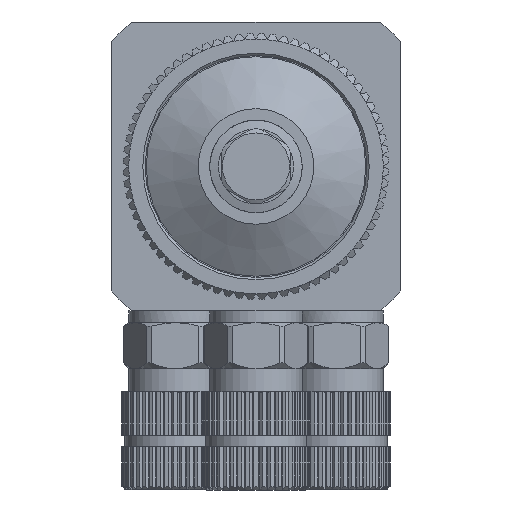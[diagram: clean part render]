
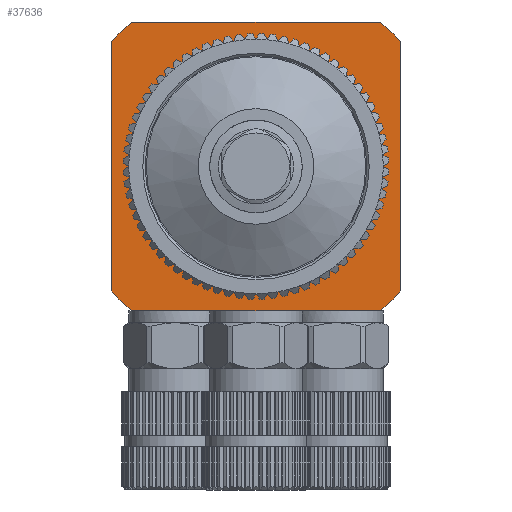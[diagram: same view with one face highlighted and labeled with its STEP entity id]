
A CAD part, front view. The second image highlights one B-rep face of the part: STEP entity #37636.
In plain terms, the highlighted planar face has unit normal (0, -1, 0).
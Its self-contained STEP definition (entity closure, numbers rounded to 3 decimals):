
#107 = VERTEX_POINT ( 'NONE', #40897 ) ;
#483 = LINE ( 'NONE', #20623, #43515 ) ;
#654 = ORIENTED_EDGE ( 'NONE', *, *, #15394, .T. ) ;
#2486 = AXIS2_PLACEMENT_3D ( 'NONE', #40423, #13170, #28782 ) ;
#3409 = AXIS2_PLACEMENT_3D ( 'NONE', #17723, #41789, #9513 ) ;
#5259 = EDGE_CURVE ( 'NONE', #39240, #23253, #48173, .T. ) ;
#5590 = ORIENTED_EDGE ( 'NONE', *, *, #6698, .F. ) ;
#6049 = CARTESIAN_POINT ( 'NONE',  ( -12.5, 5.5, 12.5 ) ) ;
#6698 = EDGE_CURVE ( 'NONE', #39240, #41886, #46819, .T. ) ;
#6884 = ORIENTED_EDGE ( 'NONE', *, *, #30106, .F. ) ;
#6948 = VERTEX_POINT ( 'NONE', #46181 ) ;
#7095 = DIRECTION ( 'NONE',  ( 0., 0., 1. ) ) ;
#7236 = CIRCLE ( 'NONE', #13988, 16.5 ) ;
#7391 = VECTOR ( 'NONE', #7095, 1000. ) ;
#8895 = DIRECTION ( 'NONE',  ( 0., 1., 0. ) ) ;
#9513 = DIRECTION ( 'NONE',  ( 0., 0., -1. ) ) ;
#9933 = DIRECTION ( 'NONE',  ( 0., 0., -1. ) ) ;
#11304 = DIRECTION ( 'NONE',  ( 0., 0., -1. ) ) ;
#11569 = ORIENTED_EDGE ( 'NONE', *, *, #50839, .T. ) ;
#12384 = CARTESIAN_POINT ( 'NONE',  ( -12.5, 5.5, 10.77 ) ) ;
#13170 = DIRECTION ( 'NONE',  ( 0., -1., 0. ) ) ;
#13214 = CARTESIAN_POINT ( 'NONE',  ( 12.5, 5.5, 12.5 ) ) ;
#13313 = VERTEX_POINT ( 'NONE', #41977 ) ;
#13575 = CARTESIAN_POINT ( 'NONE',  ( 0., 5.5, -10.5 ) ) ;
#13988 = AXIS2_PLACEMENT_3D ( 'NONE', #49927, #8895, #9933 ) ;
#14239 = CIRCLE ( 'NONE', #36219, 16.5 ) ;
#15274 = CARTESIAN_POINT ( 'NONE',  ( 12.5, 5.5, 12.5 ) ) ;
#15394 = EDGE_CURVE ( 'NONE', #50381, #50381, #26255, .T. ) ;
#15773 = VERTEX_POINT ( 'NONE', #36906 ) ;
#17723 = CARTESIAN_POINT ( 'NONE',  ( 0., 5.5, 0. ) ) ;
#20251 = VERTEX_POINT ( 'NONE', #30204 ) ;
#20623 = CARTESIAN_POINT ( 'NONE',  ( 0., 5.5, -12.5 ) ) ;
#21194 = ORIENTED_EDGE ( 'NONE', *, *, #29310, .F. ) ;
#22707 = EDGE_CURVE ( 'NONE', #15773, #13313, #7236, .T. ) ;
#22821 = CARTESIAN_POINT ( 'NONE',  ( -12.5, 5.5, 12.5 ) ) ;
#23235 = PLANE ( 'NONE',  #43016 ) ;
#23253 = VERTEX_POINT ( 'NONE', #47107 ) ;
#23611 = DIRECTION ( 'NONE',  ( 1., 0., 0. ) ) ;
#25053 = VERTEX_POINT ( 'NONE', #35607 ) ;
#25246 = ORIENTED_EDGE ( 'NONE', *, *, #22707, .F. ) ;
#26248 = ORIENTED_EDGE ( 'NONE', *, *, #37265, .T. ) ;
#26255 = CIRCLE ( 'NONE', #3409, 10.5 ) ;
#26741 = DIRECTION ( 'NONE',  ( 0., -1., 0. ) ) ;
#27390 = CARTESIAN_POINT ( 'NONE',  ( 0., 5.5, -12.5 ) ) ;
#27726 = FACE_OUTER_BOUND ( 'NONE', #43762, .T. ) ;
#28471 = VECTOR ( 'NONE', #23611, 1000. ) ;
#28782 = DIRECTION ( 'NONE',  ( 0., 0., -1. ) ) ;
#29033 = ORIENTED_EDGE ( 'NONE', *, *, #42558, .F. ) ;
#29310 = EDGE_CURVE ( 'NONE', #13313, #6948, #47502, .T. ) ;
#29350 = DIRECTION ( 'NONE',  ( 0., 0., -1. ) ) ;
#29490 = ORIENTED_EDGE ( 'NONE', *, *, #31819, .F. ) ;
#29750 = ORIENTED_EDGE ( 'NONE', *, *, #5259, .T. ) ;
#30106 = EDGE_CURVE ( 'NONE', #6948, #23253, #483, .T. ) ;
#30204 = CARTESIAN_POINT ( 'NONE',  ( -10.77, 5.5, 12.5 ) ) ;
#30718 = LINE ( 'NONE', #22821, #28471 ) ;
#30847 = DIRECTION ( 'NONE',  ( 0., -1., 0. ) ) ;
#31746 = CARTESIAN_POINT ( 'NONE',  ( 0., 5.5, 0. ) ) ;
#31819 = EDGE_CURVE ( 'NONE', #25053, #15773, #33332, .T. ) ;
#33005 = EDGE_LOOP ( 'NONE', ( #654 ) ) ;
#33086 = DIRECTION ( 'NONE',  ( 0., 0., -1. ) ) ;
#33332 = LINE ( 'NONE', #13214, #38463 ) ;
#35607 = CARTESIAN_POINT ( 'NONE',  ( 12.5, 5.5, 10.77 ) ) ;
#36219 = AXIS2_PLACEMENT_3D ( 'NONE', #31746, #26741, #49222 ) ;
#36681 = VECTOR ( 'NONE', #43534, 1000. ) ;
#36906 = CARTESIAN_POINT ( 'NONE',  ( 12.5, 5.5, -10.77 ) ) ;
#37265 = EDGE_CURVE ( 'NONE', #20251, #41886, #14239, .T. ) ;
#37636 = ADVANCED_FACE ( 'NONE', ( #39368, #27726 ), #23235, .T. ) ;
#38463 = VECTOR ( 'NONE', #29350, 1000. ) ;
#39240 = VERTEX_POINT ( 'NONE', #48048 ) ;
#39368 = FACE_BOUND ( 'NONE', #33005, .T. ) ;
#40423 = CARTESIAN_POINT ( 'NONE',  ( 0., 5.5, 0. ) ) ;
#40897 = CARTESIAN_POINT ( 'NONE',  ( 10.77, 5.5, 12.5 ) ) ;
#41789 = DIRECTION ( 'NONE',  ( 0., 1., 0. ) ) ;
#41886 = VERTEX_POINT ( 'NONE', #12384 ) ;
#41977 = CARTESIAN_POINT ( 'NONE',  ( 10.77, 5.5, -12.5 ) ) ;
#42558 = EDGE_CURVE ( 'NONE', #20251, #107, #30718, .T. ) ;
#43016 = AXIS2_PLACEMENT_3D ( 'NONE', #15274, #47568, #11304 ) ;
#43515 = VECTOR ( 'NONE', #48422, 1000. ) ;
#43534 = DIRECTION ( 'NONE',  ( -1., 0., 0. ) ) ;
#43762 = EDGE_LOOP ( 'NONE', ( #21194, #25246, #29490, #11569, #29033, #26248, #5590, #29750, #6884 ) ) ;
#45166 = CIRCLE ( 'NONE', #51921, 16.5 ) ;
#46181 = CARTESIAN_POINT ( 'NONE',  ( 0., 5.5, -12.5 ) ) ;
#46485 = CARTESIAN_POINT ( 'NONE',  ( 0., 5.5, 0. ) ) ;
#46819 = LINE ( 'NONE', #6049, #7391 ) ;
#47107 = CARTESIAN_POINT ( 'NONE',  ( -10.77, 5.5, -12.5 ) ) ;
#47502 = LINE ( 'NONE', #27390, #36681 ) ;
#47568 = DIRECTION ( 'NONE',  ( 0., -1., 0. ) ) ;
#48048 = CARTESIAN_POINT ( 'NONE',  ( -12.5, 5.5, -10.77 ) ) ;
#48173 = CIRCLE ( 'NONE', #2486, 16.5 ) ;
#48422 = DIRECTION ( 'NONE',  ( -1., 0., 0. ) ) ;
#49222 = DIRECTION ( 'NONE',  ( 0., 0., -1. ) ) ;
#49927 = CARTESIAN_POINT ( 'NONE',  ( 0., 5.5, 0. ) ) ;
#50381 = VERTEX_POINT ( 'NONE', #13575 ) ;
#50839 = EDGE_CURVE ( 'NONE', #25053, #107, #45166, .T. ) ;
#51921 = AXIS2_PLACEMENT_3D ( 'NONE', #46485, #30847, #33086 ) ;
